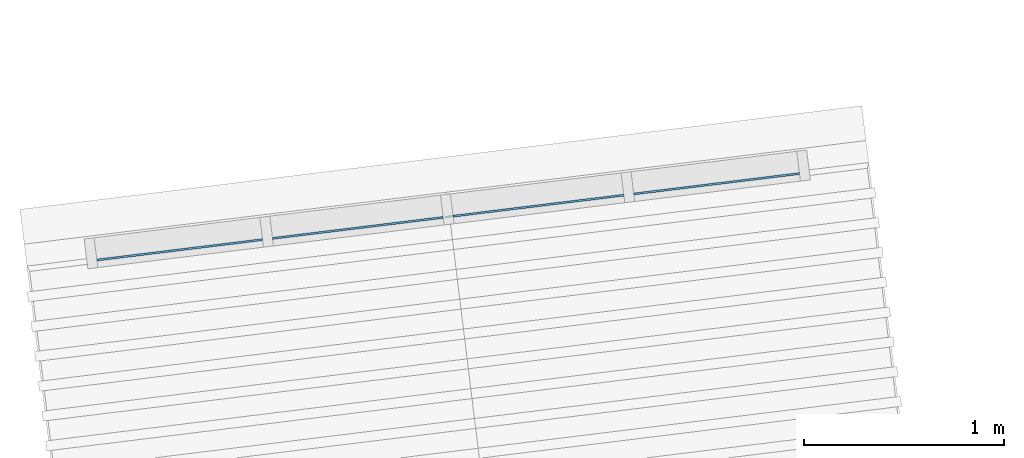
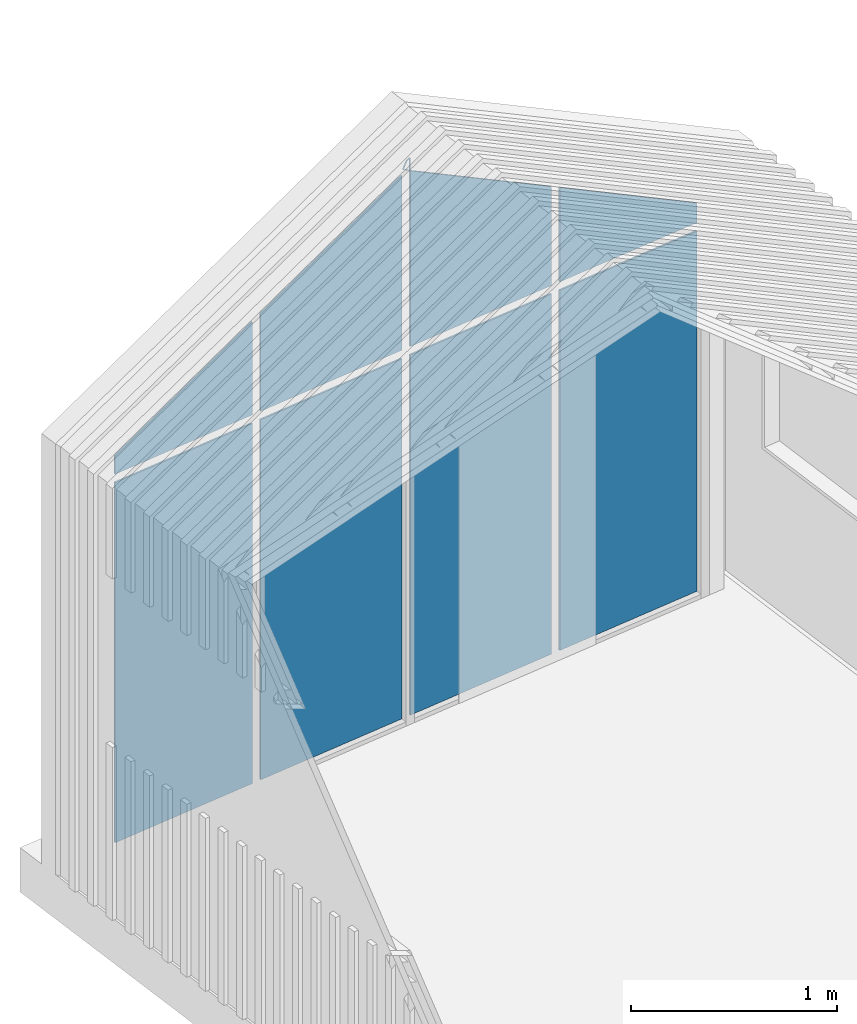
# One storey, part 16 of 75: 8 plates, 1 element without a shape of its own.
"""IFC2X3 building model written with IfcOpenShell, lengths in metres."""

import ifcopenshell
import ifcopenshell.guid

model = None  # the IFC model being written
_history = None  # IfcOwnerHistory: only IFC2X3 demands one
_inside = {}  # id of a spatial element -> (the spatial element, [elements in it])
_under = {}  # id of a project, library or spatial element -> (it, [spatial elements below it])
_declared = {}  # id of a project -> (the project, [libraries it declares])
_typed = {}  # id of a type object -> (the type object, [elements of that type])
_made_of = {}  # id of a material, layer set ... -> (it, [elements and type objects made of it])


def new_model(schema):
    """Start an empty IFC model of exactly this schema.

    Asked for "IFC4X3", IfcOpenShell would pick the latest addendum, in which some entities
    have other attributes; the version numbers below select the first issue.
    IFC2X3 requires an IfcOwnerHistory on every rooted entity: one is made here for all.
    """
    global model, _history
    if schema == "IFC4X3":
        model = ifcopenshell.file(schema_version=(4, 3, 0, 0))
    else:
        model = ifcopenshell.file(schema=schema)
    _inside.clear()
    _under.clear()
    _declared.clear()
    _typed.clear()
    _made_of.clear()
    _history = None
    if model.schema == "IFC2X3":
        org = make("IfcOrganization", Name="unknown")
        user = make(
            "IfcPersonAndOrganization",
            ThePerson=make("IfcPerson", FamilyName="unknown"),
            TheOrganization=org,
        )
        app = make(
            "IfcApplication",
            ApplicationDeveloper=org,
            Version="unknown",
            ApplicationFullName="unknown",
            ApplicationIdentifier="unknown",
        )
        _history = make(
            "IfcOwnerHistory",
            OwningUser=user,
            OwningApplication=app,
            ChangeAction="ADDED",
            CreationDate=0,
        )
    return model


def make(cls, **values):
    """One entity of the class cls with the attributes given. An attribute that is None is left unset."""
    return model.create_entity(
        cls, **{name: value for name, value in values.items() if value is not None}
    )


def entity(cls, *values):
    """Any entity or typed value of the class cls, its attributes in the order of the schema. None: left unset."""
    e = model.create_entity(cls)
    for i, value in enumerate(values):
        if value is not None:
            e[i] = value
    return e


def rooted(cls, **values):
    """An entity with a GlobalId (a new one), such as an element, a storey or a relation."""
    return make(cls, GlobalId=ifcopenshell.guid.new(), OwnerHistory=_history, **values)


def si_unit(unit_type, name, prefix=None):
    """IfcSIUnit, for example si_unit("LENGTHUNIT", "METRE", prefix="MILLI")."""
    return make("IfcSIUnit", UnitType=unit_type, Prefix=prefix, Name=name)


def converted_unit(unit_type, name, factor, base, dimensions=None, offset=None):
    """IfcConversionBasedUnit, such as the inch: factor (a typed value) times the base unit."""
    return make(
        "IfcConversionBasedUnit"
        if offset is None
        else "IfcConversionBasedUnitWithOffset",
        ConversionOffset=offset,
        Dimensions=None
        if dimensions is None
        else entity("IfcDimensionalExponents", *dimensions),
        UnitType=unit_type,
        Name=name,
        ConversionFactor=make(
            "IfcMeasureWithUnit", ValueComponent=factor, UnitComponent=base
        ),
    )


def derived_unit(unit_type, elements):
    """IfcDerivedUnit: a product of units, each with its exponent."""
    return make(
        "IfcDerivedUnit",
        Elements=[
            make("IfcDerivedUnitElement", Unit=unit, Exponent=power)
            for unit, power in elements
        ],
        UnitType=unit_type,
    )


def assignment(units):
    """IfcUnitAssignment: the units of a project."""
    return None if units is None else make("IfcUnitAssignment", Units=units)


def point(xyz):
    """IfcCartesianPoint."""
    return None if xyz is None else make("IfcCartesianPoint", Coordinates=xyz)


def direction(xyz):
    """IfcDirection."""
    return None if xyz is None else make("IfcDirection", DirectionRatios=xyz)


def frame(location, z_axis=None, x_axis=None):
    """IfcAxis2Placement3D, a coordinate frame: its origin and axes. An axis left out is left unset."""
    return make(
        "IfcAxis2Placement3D",
        Location=point(location),
        Axis=direction(z_axis),
        RefDirection=direction(x_axis),
    )


def frame_2d(location, x_axis=None):
    """IfcAxis2Placement2D, a coordinate frame in the plane: its origin and x axis."""
    return make(
        "IfcAxis2Placement2D", Location=point(location), RefDirection=direction(x_axis)
    )


def origin():
    """The frame at (0, 0, 0) with its axes left unset."""
    return frame((0.0, 0.0, 0.0))


def place(relative_to, where):
    """IfcLocalPlacement: puts the frame where relative to a parent placement (None: the world)."""
    return make(
        "IfcLocalPlacement", PlacementRelTo=relative_to, RelativePlacement=where
    )


def context(
    kind, dimensions, precision=None, world=None, true_north=None, identifier=None
):
    """IfcGeometricRepresentationContext, for example the 3D "Model" context."""
    return make(
        "IfcGeometricRepresentationContext",
        ContextIdentifier=identifier,
        ContextType=kind,
        CoordinateSpaceDimension=dimensions,
        Precision=precision,
        WorldCoordinateSystem=world,
        TrueNorth=true_north,
    )


def subcontext(parent, identifier, kind, view, scale=None):
    """IfcGeometricRepresentationSubContext, for example "Body" below "Model"."""
    return make(
        "IfcGeometricRepresentationSubContext",
        ContextIdentifier=identifier,
        ContextType=kind,
        ParentContext=parent,
        TargetScale=scale,
        TargetView=view,
    )


def project(units=None, contexts=None):
    """IfcProject with its units and contexts."""
    return rooted(
        "IfcProject",
        Name="project",
        RepresentationContexts=contexts,
        UnitsInContext=assignment(units),
    )


def spatial(cls, under=None, at=None, **own):
    """A site, building, storey or space (cls), placed at a placement, below another one or the project."""
    s = rooted(cls, ObjectPlacement=at, **own)
    if under is not None:
        _under.setdefault(under.id(), (under, []))[1].append(s)
    return s


def polyline(points):
    """IfcPolyline through the points."""
    return make("IfcPolyline", Points=[point(p) for p in points])


def profile(cls, at=None, kind="AREA", **sizes):
    """A parametric profile (cls). Its sizes go by their IFC names, for example OverallWidth=200.0."""
    return make(cls, ProfileType=kind, Position=at, **sizes)


def rectangle(**sizes):
    """IfcRectangleProfileDef."""
    return profile("IfcRectangleProfileDef", **sizes)


def outline(outer, holes=None, kind="AREA"):
    """IfcArbitraryClosedProfileDef: a profile drawn as a closed curve; with holes, ...WithVoids."""
    if holes is None:
        return make("IfcArbitraryClosedProfileDef", ProfileType=kind, OuterCurve=outer)
    return make(
        "IfcArbitraryProfileDefWithVoids",
        ProfileType=kind,
        OuterCurve=outer,
        InnerCurves=holes,
    )


def extrude(swept, where, along, depth):
    """IfcExtrudedAreaSolid: the profile swept, set in the frame where, extruded along a direction by depth."""
    return make(
        "IfcExtrudedAreaSolid",
        SweptArea=swept,
        Position=where,
        ExtrudedDirection=direction(along),
        Depth=depth,
    )


def faces_of(points, faces, orient=None, outer=None):
    """IfcFace entities. A face is a list of loops; a loop is a list of indices into points, from 0.

    orient and outer hold one flag for each loop. By default every Orientation is true, the
    first loop of a face is its IfcFaceOuterBound and the others are IfcFaceBound.
    """
    made = []
    for i, loops in enumerate(faces):
        bounds = []
        for j, loop in enumerate(loops):
            is_outer = j == 0 if outer is None else outer[i][j]
            bounds.append(
                make(
                    "IfcFaceOuterBound" if is_outer else "IfcFaceBound",
                    Bound=make("IfcPolyLoop", Polygon=[points[k] for k in loop]),
                    Orientation=True if orient is None else orient[i][j],
                )
            )
        made.append(make("IfcFace", Bounds=bounds))
    return made


def faceted_brep(points, faces, orient=None, outer=None, voids=None):
    """IfcFacetedBrep: a solid bounded by flat faces; with voids (closed shells), ...WithVoids."""
    shared = [point(p) for p in points]
    hull = make("IfcClosedShell", CfsFaces=faces_of(shared, faces, orient, outer))
    if voids is None:
        return make("IfcFacetedBrep", Outer=hull)
    return make(
        "IfcFacetedBrepWithVoids",
        Outer=hull,
        Voids=[
            make(cls, CfsFaces=faces_of(shared, fs, o, b)) for cls, fs, o, b in voids
        ],
    )


def shape(context_of_items, identifier, shape_type, items):
    """IfcShapeRepresentation: the items that make up one representation, for example the "Body"."""
    return make(
        "IfcShapeRepresentation",
        ContextOfItems=context_of_items,
        RepresentationIdentifier=identifier,
        RepresentationType=shape_type,
        Items=items,
    )


def source(mapping_origin, context_of_items, identifier, shape_type, items):
    """IfcRepresentationMap: a shape defined once, which mapped items show again and again."""
    return make(
        "IfcRepresentationMap",
        MappingOrigin=mapping_origin,
        MappedRepresentation=shape(context_of_items, identifier, shape_type, items),
    )


def transform(
    local_origin,
    x_axis=None,
    y_axis=None,
    z_axis=None,
    scale=None,
    scale2=None,
    scale3=None,
    uniform=True,
):
    """IfcCartesianTransformationOperator3D, or its non-uniform kind. x_axis, y_axis, z_axis: its Axis1, 2, 3."""
    if uniform:
        return make(
            "IfcCartesianTransformationOperator3D",
            Axis1=direction(x_axis),
            Axis2=direction(y_axis),
            LocalOrigin=point(local_origin),
            Scale=scale,
            Axis3=direction(z_axis),
        )
    return make(
        "IfcCartesianTransformationOperator3DnonUniform",
        Axis1=direction(x_axis),
        Axis2=direction(y_axis),
        LocalOrigin=point(local_origin),
        Scale=scale,
        Axis3=direction(z_axis),
        Scale2=scale2,
        Scale3=scale3,
    )


def mapped(mapping_source, mapping_target):
    """IfcMappedItem: shows the shape of a source again, moved by a transform."""
    return make(
        "IfcMappedItem", MappingSource=mapping_source, MappingTarget=mapping_target
    )


def material(Name=None, Category=None):
    """IfcMaterial."""
    return make("IfcMaterial", Name=Name, Category=Category)


def made_of(thing, what):
    """Note that an element or type object is made of a material, layer set ...; save() writes the relation."""
    if what is not None:
        _made_of.setdefault(what.id(), (what, []))[1].append(thing)
    return thing


def type_object(cls, material=None, **own):
    """A type object (cls), such as IfcWallType, which elements share."""
    return made_of(rooted(cls, **own), material)


def type_shapes(of_type, sources):
    """Give a type object the sources (RepresentationMaps) that its elements show as mapped items."""
    of_type.RepresentationMaps = sources


def element(
    cls,
    number,
    at=None,
    inside=None,
    cuts=None,
    type_object=None,
    material=None,
    context=None,
    identifier="Body",
    shape_type=None,
    held_by="IfcProductDefinitionShape",
    body=None,
    shapes=None,
    **own,
):
    """One element of the class cls, such as IfcWall. Its Tag is "e" and its number.

    at: its placement. inside: the storey or other place that contains it. cuts: it is an
    opening in that element (IfcRelVoidsElement). A single representation is given by context,
    identifier, shape_type and body (its items); several are given by shapes. held_by: the class
    of the entity that holds the representations. save() writes the other relations.
    """
    e = rooted(cls, Tag="e%d" % number, ObjectPlacement=at, **own)
    if body is not None:
        shapes = [shape(context, identifier, shape_type, body)]
    if shapes is not None:
        e.Representation = make(held_by, Representations=shapes)
    if inside is not None:
        _inside.setdefault(inside.id(), (inside, []))[1].append(e)
    if cuts is not None:
        rooted(
            "IfcRelVoidsElement", RelatingBuildingElement=cuts, RelatedOpeningElement=e
        )
    if type_object is not None:
        _typed.setdefault(type_object.id(), (type_object, []))[1].append(e)
    return made_of(e, material)


def aggregate(whole, parts):
    """IfcRelAggregates: a whole, such as a stair, and the parts it consists of."""
    return rooted("IfcRelAggregates", RelatingObject=whole, RelatedObjects=parts)


def save(model, path):
    """Write the relations noted so far, then the file.

    IfcRelAggregates (storeys below a building ...), IfcRelContainedInSpatialStructure (elements
    in a storey), IfcRelDefinesByType, IfcRelAssociatesMaterial and IfcRelDeclares: one each for
    every whole, place, type object, material and project.
    """
    for whole, parts in _under.values():
        aggregate(whole, parts)
    for where, things in _inside.values():
        rooted(
            "IfcRelContainedInSpatialStructure",
            RelatedElements=things,
            RelatingStructure=where,
        )
    for kind, things in _typed.values():
        rooted("IfcRelDefinesByType", RelatedObjects=things, RelatingType=kind)
    for what, things in _made_of.values():
        rooted("IfcRelAssociatesMaterial", RelatedObjects=things, RelatingMaterial=what)
    for by, libraries in _declared.values():
        rooted("IfcRelDeclares", RelatingContext=by, RelatedDefinitions=libraries)
    model.write(path)


model = new_model("IFC2X3")

# Units and contexts
model_context = context("Model", 3, precision=1e-05, world=origin(), true_north=direction((6.123031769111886e-17, 1.0)))
body_context = subcontext(model_context, "Body", "Model", "MODEL_VIEW")
ifc_project = project(units=[si_unit("LENGTHUNIT", "METRE"), si_unit("AREAUNIT", "SQUARE_METRE"), si_unit("VOLUMEUNIT", "CUBIC_METRE"), converted_unit("PLANEANGLEUNIT", "DEGREE", entity("IfcRatioMeasure", 0.017453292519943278), si_unit("PLANEANGLEUNIT", "RADIAN"), dimensions=[0, 0, 0, 0, 0, 0, 0]), si_unit("MASSUNIT", "GRAM", prefix="KILO"), derived_unit("MASSDENSITYUNIT", [(si_unit("MASSUNIT", "GRAM", prefix="KILO"), 1), (si_unit("LENGTHUNIT", "METRE"), -3)]), derived_unit("IONCONCENTRATIONUNIT", [(si_unit("MASSUNIT", "GRAM", prefix="KILO"), 1), (si_unit("LENGTHUNIT", "METRE"), -3)]), derived_unit("MOMENTOFINERTIAUNIT", [(si_unit("LENGTHUNIT", "METRE"), 4)]), si_unit("TIMEUNIT", "SECOND"), si_unit("FREQUENCYUNIT", "HERTZ"), si_unit("THERMODYNAMICTEMPERATUREUNIT", "DEGREE_CELSIUS"), derived_unit("THERMALTRANSMITTANCEUNIT", [(si_unit("MASSUNIT", "GRAM", prefix="KILO"), 1), (si_unit("THERMODYNAMICTEMPERATUREUNIT", "KELVIN"), -1), (si_unit("TIMEUNIT", "SECOND"), -3)]), derived_unit("THERMALCONDUCTANCEUNIT", [(si_unit("MASSUNIT", "GRAM", prefix="KILO"), 1), (si_unit("THERMODYNAMICTEMPERATUREUNIT", "KELVIN"), -1), (si_unit("TIMEUNIT", "SECOND"), -3), (si_unit("LENGTHUNIT", "METRE"), 1)]), derived_unit("VOLUMETRICFLOWRATEUNIT", [(si_unit("LENGTHUNIT", "METRE"), 3), (si_unit("TIMEUNIT", "SECOND"), -1)]), derived_unit("MASSFLOWRATEUNIT", [(si_unit("MASSUNIT", "GRAM", prefix="KILO"), 1), (si_unit("TIMEUNIT", "SECOND"), -1)]), derived_unit("ROTATIONALFREQUENCYUNIT", [(si_unit("TIMEUNIT", "SECOND"), -1)]), si_unit("ELECTRICCURRENTUNIT", "AMPERE"), si_unit("ELECTRICVOLTAGEUNIT", "VOLT"), si_unit("POWERUNIT", "WATT"), si_unit("FORCEUNIT", "NEWTON", prefix="KILO"), si_unit("ILLUMINANCEUNIT", "LUX"), si_unit("LUMINOUSFLUXUNIT", "LUMEN"), si_unit("LUMINOUSINTENSITYUNIT", "CANDELA"), derived_unit("USERDEFINED", [(si_unit("MASSUNIT", "GRAM", prefix="KILO"), -1), (si_unit("LENGTHUNIT", "METRE"), -2), (si_unit("TIMEUNIT", "SECOND"), 3), (si_unit("LUMINOUSFLUXUNIT", "LUMEN"), 1)]), derived_unit("USERDEFINED", [(si_unit("MASSUNIT", "GRAM", prefix="KILO"), 1), (si_unit("TIMEUNIT", "SECOND"), -3), (si_unit("LENGTHUNIT", "METRE"), 3), (si_unit("ELECTRICCURRENTUNIT", "AMPERE"), -2)]), derived_unit("SOUNDPOWERUNIT", [(si_unit("MASSUNIT", "GRAM", prefix="KILO"), 1), (si_unit("TIMEUNIT", "SECOND"), -3), (si_unit("LENGTHUNIT", "METRE"), 2)]), derived_unit("SOUNDPRESSUREUNIT", [(si_unit("MASSUNIT", "GRAM", prefix="KILO"), 1), (si_unit("LENGTHUNIT", "METRE"), -1), (si_unit("TIMEUNIT", "SECOND"), -2)]), derived_unit("LINEARVELOCITYUNIT", [(si_unit("LENGTHUNIT", "METRE"), 1), (si_unit("TIMEUNIT", "SECOND"), -1)]), si_unit("PRESSUREUNIT", "PASCAL"), derived_unit("USERDEFINED", [(si_unit("MASSUNIT", "GRAM", prefix="KILO"), 1), (si_unit("LENGTHUNIT", "METRE"), -2), (si_unit("TIMEUNIT", "SECOND"), -2)]), derived_unit("LINEARFORCEUNIT", [(si_unit("MASSUNIT", "GRAM", prefix="KILO"), 1), (si_unit("TIMEUNIT", "SECOND"), -2)]), derived_unit("PLANARFORCEUNIT", [(si_unit("MASSUNIT", "GRAM", prefix="KILO"), 1), (si_unit("LENGTHUNIT", "METRE"), -1), (si_unit("TIMEUNIT", "SECOND"), -2)]), derived_unit("SPECIFICHEATCAPACITYUNIT", [(si_unit("THERMODYNAMICTEMPERATUREUNIT", "KELVIN"), -1), (si_unit("LENGTHUNIT", "METRE"), 2), (si_unit("TIMEUNIT", "SECOND"), -2)]), derived_unit("HEATINGVALUEUNIT", [(si_unit("LENGTHUNIT", "METRE"), 2), (si_unit("TIMEUNIT", "SECOND"), -2)]), derived_unit("VAPORPERMEABILITYUNIT", [(si_unit("LENGTHUNIT", "METRE"), -1), (si_unit("TIMEUNIT", "SECOND"), 1)]), derived_unit("DYNAMICVISCOSITYUNIT", [(si_unit("MASSUNIT", "GRAM", prefix="KILO"), 1), (si_unit("TIMEUNIT", "SECOND"), -1), (si_unit("LENGTHUNIT", "METRE"), -1)]), derived_unit("THERMALEXPANSIONCOEFFICIENTUNIT", [(si_unit("THERMODYNAMICTEMPERATUREUNIT", "KELVIN"), -1)]), derived_unit("MODULUSOFELASTICITYUNIT", [(si_unit("MASSUNIT", "GRAM", prefix="KILO"), 1), (si_unit("LENGTHUNIT", "METRE"), -1), (si_unit("TIMEUNIT", "SECOND"), -2)]), derived_unit("ISOTHERMALMOISTURECAPACITYUNIT", [(si_unit("LENGTHUNIT", "METRE"), 3), (si_unit("MASSUNIT", "GRAM", prefix="KILO"), -1)]), derived_unit("MOISTUREDIFFUSIVITYUNIT", [(si_unit("TIMEUNIT", "SECOND"), -1), (si_unit("LENGTHUNIT", "METRE"), 2)])], contexts=[model_context])

# Site, building, storey
site_placement = place(None, origin())
site = spatial("IfcSite", under=ifc_project, at=site_placement, Name="Default", CompositionType="ELEMENT")
building_placement = place(site_placement, origin())
building = spatial("IfcBuilding", under=site, at=building_placement, Name="Projeto", CompositionType="ELEMENT")
storey_placement = place(building_placement, origin())
storey = spatial("IfcBuildingStorey", under=building, at=storey_placement, Name="Nível 1", CompositionType="ELEMENT", Elevation=0.0)

# Curtain wall, plates
curtain_wall_type = type_object("IfcCurtainWallType", Name="Parede cortina:Vitrine", PredefinedType="NOTDEFINED")
curtain_wall_placement = place(storey_placement, origin())
curtain_wall = element("IfcCurtainWall", 1, at=curtain_wall_placement, inside=storey, type_object=curtain_wall_type, Name="Parede cortina:Vitrine", ObjectType="Parede cortina:Vitrine")
ifc_material = material(Name="Vidro")
plate_type_1 = type_object("IfcPlateType", Name="Painel do sistema:Envidraçado", PredefinedType="CURTAIN_PANEL", material=ifc_material)
shared_shape_1 = source(origin(), body_context, "Body", "SweptSolid", [
    extrude(outline(polyline([(-0.16823398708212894, -0.4168806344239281), (-0.05342537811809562, -0.4168806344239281), (0.3898933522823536, 0.41688063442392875), (-0.16823398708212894, 0.4168806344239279), (-0.16823398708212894, -0.4168806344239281)])), frame((0.0, 0.032000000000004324, 0.1682339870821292), z_axis=(0.0, 1.0, 0.0), x_axis=(0.0, 0.0, 1.0)), (0.0, 0.0, 1.0), 0.010000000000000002),
])
type_shapes(plate_type_1, [shared_shape_1])
plate_1_placement = place(curtain_wall_placement, frame((-151.06561645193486, 78.22297903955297, -0.37203155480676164), z_axis=(0.0, 0.0, 1.0), x_axis=(-0.9925113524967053, -0.12215242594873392, 0.0)))
plate_1 = element("IfcPlate", 2, at=plate_1_placement, type_object=plate_type_1, material=ifc_material, Name="Painel do sistema:Envidraçado", ObjectType="Painel do sistema:Envidraçado", context=body_context, shape_type="MappedRepresentation", body=[
    mapped(shared_shape_1, transform((0.0, 0.0, 0.0), scale=1.0)),
])
plate_type_2 = type_object("IfcPlateType", Name="Painel do sistema:Envidraçado", PredefinedType="CURTAIN_PANEL", material=ifc_material)
shared_shape_2 = source(origin(), body_context, "Body", "Brep", [
    faceted_brep([(0.0, 0.0, 0.0), (0.8587612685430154, 0.0, 0.0), (0.8587612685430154, 0.0, 1.116815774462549), (0.8764993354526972, 0.0, 1.1073842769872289), (0.8999729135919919, 0.0, 1.0632368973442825), (0.0, 0.0, 0.5847128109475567), (0.0, 0.010000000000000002, 0.0), (0.0, 0.010000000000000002, 0.5847128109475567), (0.8999729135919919, 0.010000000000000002, 1.0632368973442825), (0.8764993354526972, 0.010000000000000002, 1.1073842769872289), (0.8587612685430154, 0.010000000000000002, 1.116815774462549), (0.8587612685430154, 0.010000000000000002, 0.0)], [[[0, 1, 2, 3, 4, 5]], [[6, 7, 8, 9, 10, 11]], [[1, 0, 6, 11]], [[2, 1, 11, 10]], [[3, 2, 10, 9]], [[4, 3, 9, 8]], [[5, 4, 8, 7]], [[0, 5, 7, 6]]]),
])
type_shapes(plate_type_2, [shared_shape_2])
plate_2_placement = place(curtain_wall_placement, frame((-151.52509190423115, 78.1341880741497, -0.37203155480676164), z_axis=(0.0, 0.0, 1.0), x_axis=(-0.9925113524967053, -0.12215242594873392, 0.0)))
plate_2 = element("IfcPlate", 3, at=plate_2_placement, type_object=plate_type_2, material=ifc_material, Name="Painel do sistema:Envidraçado", ObjectType="Painel do sistema:Envidraçado", context=body_context, shape_type="MappedRepresentation", body=[
    mapped(shared_shape_2, transform((0.0, 0.0, 0.0), scale=1.0)),
])
plate_type_3 = type_object("IfcPlateType", Name="Painel do sistema:Envidraçado", PredefinedType="CURTAIN_PANEL", material=ifc_material)
shared_shape_3 = source(origin(), body_context, "Body", "SweptSolid", [
    extrude(outline(polyline([(-0.4026480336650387, -0.4293806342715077), (0.6309537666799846, -0.4293806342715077), (0.1743423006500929, 0.4293806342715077), (-0.4026480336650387, 0.42938063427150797), (-0.4026480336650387, -0.4293806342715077)])), frame((0.0, 0.031999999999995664, 0.402648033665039), z_axis=(0.0, 1.0, 0.0), x_axis=(0.0, 0.0, 1.0)), (0.0, 0.0, 1.0), 0.010000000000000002),
])
type_shapes(plate_type_3, [shared_shape_3])
plate_3_placement = place(curtain_wall_placement, frame((-152.85712181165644, 78.00249115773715, -0.37203155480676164), z_axis=(0.0, 0.0, 1.0), x_axis=(-0.9925113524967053, -0.12215242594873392, 0.0)))
plate_3 = element("IfcPlate", 4, at=plate_3_placement, type_object=plate_type_3, material=ifc_material, Name="Painel do sistema:Envidraçado", ObjectType="Painel do sistema:Envidraçado", context=body_context, shape_type="MappedRepresentation", body=[
    mapped(shared_shape_3, transform((0.0, 0.0, 0.0), scale=1.0)),
])
plate_type_4 = type_object("IfcPlateType", Name="Painel do sistema:Envidraçado", PredefinedType="CURTAIN_PANEL", material=ifc_material)
shared_shape_4 = source(origin(), body_context, "Body", "SweptSolid", [
    extrude(outline(polyline([(-0.16437274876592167, -0.41688063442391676), (0.3860321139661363, -0.41688063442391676), (-0.057286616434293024, 0.4168806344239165), (-0.16437274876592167, 0.4168806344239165), (-0.16437274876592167, -0.41688063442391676)])), frame((0.0, 0.031999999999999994, 0.16437274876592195), z_axis=(0.0, 1.0, 0.0), x_axis=(0.0, 0.0, 1.0)), (0.0, 0.0, 1.0), 0.010000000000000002),
])
type_shapes(plate_type_4, [shared_shape_4])
plate_4_placement = place(curtain_wall_placement, frame((-153.74667129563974, 77.89301066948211, -0.37203155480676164), z_axis=(0.0, 0.0, 1.0), x_axis=(-0.9925113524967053, -0.12215242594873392, 0.0)))
plate_4 = element("IfcPlate", 5, at=plate_4_placement, type_object=plate_type_4, material=ifc_material, Name="Painel do sistema:Envidraçado", ObjectType="Painel do sistema:Envidraçado", context=body_context, shape_type="MappedRepresentation", body=[
    mapped(shared_shape_4, transform((0.0, 0.0, 0.0), scale=1.0)),
])
plate_type_5 = type_object("IfcPlateType", Name="Painel do sistema:Envidraçado", PredefinedType="CURTAIN_PANEL", material=ifc_material)
shared_shape_5 = source(origin(), body_context, "Body", "SweptSolid", [
    extrude(rectangle(XDim=0.010000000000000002, YDim=0.8337612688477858, at=frame_2d((-4.336808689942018e-18, 1.3322676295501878e-15), x_axis=(1.0, 0.0))), frame((0.0, 0.037, 0.0), z_axis=(0.0, 0.0, 1.0), x_axis=(0.0, 1.0, 0.0)), (0.0, 0.0, 1.0), 2.1329684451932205),
])
type_shapes(plate_type_5, [shared_shape_5])
plate_5_placement = place(curtain_wall_placement, frame((-151.06561645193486, 78.22297903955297, -2.554999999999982), z_axis=(0.0, 0.0, 1.0), x_axis=(-0.9925113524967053, -0.12215242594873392, 0.0)))
plate_5 = element("IfcPlate", 6, at=plate_5_placement, type_object=plate_type_5, material=ifc_material, Name="Painel do sistema:Envidraçado", ObjectType="Painel do sistema:Envidraçado", context=body_context, shape_type="MappedRepresentation", body=[
    mapped(shared_shape_5, transform((0.0, 0.0, 0.0), scale=1.0)),
])
plate_6_placement = place(curtain_wall_placement, frame((-153.74667129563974, 77.89301066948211, -2.554999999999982), z_axis=(0.0, 0.0, 1.0), x_axis=(-0.9925113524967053, -0.12215242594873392, 0.0)))
plate_6 = element("IfcPlate", 7, at=plate_6_placement, type_object=plate_type_5, material=ifc_material, Name="Painel do sistema:Envidraçado", ObjectType="Painel do sistema:Envidraçado", context=body_context, shape_type="MappedRepresentation", body=[
    mapped(shared_shape_5, transform((0.0, 0.0, 0.0), scale=1.0)),
])
plate_type_6 = type_object("IfcPlateType", Name="Painel do sistema:Envidraçado", PredefinedType="CURTAIN_PANEL", material=ifc_material)
shared_shape_6 = source(origin(), body_context, "Body", "SweptSolid", [
    extrude(rectangle(XDim=0.010000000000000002, YDim=0.858761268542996, at=frame_2d((-4.336808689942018e-18, -1.8318679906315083e-15), x_axis=(1.0, 0.0))), frame((0.0, 0.037, 0.0), z_axis=(0.0, 0.0, 1.0), x_axis=(0.0, 1.0, 0.0)), (0.0, 0.0, 1.0), 2.1329684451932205),
])
type_shapes(plate_type_6, [shared_shape_6])
plate_7_placement = place(curtain_wall_placement, frame((-151.95516593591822, 78.11349855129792, -2.554999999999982), z_axis=(0.0, 0.0, 1.0), x_axis=(-0.9925113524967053, -0.12215242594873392, 0.0)))
plate_7 = element("IfcPlate", 8, at=plate_7_placement, type_object=plate_type_6, material=ifc_material, Name="Painel do sistema:Envidraçado", ObjectType="Painel do sistema:Envidraçado", context=body_context, shape_type="MappedRepresentation", body=[
    mapped(shared_shape_6, transform((0.0, 0.0, 0.0), scale=1.0)),
])
plate_8_placement = place(curtain_wall_placement, frame((-152.85712181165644, 78.00249115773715, -2.554999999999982), z_axis=(0.0, 0.0, 1.0), x_axis=(-0.9925113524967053, -0.12215242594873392, 0.0)))
plate_8 = element("IfcPlate", 9, at=plate_8_placement, type_object=plate_type_6, material=ifc_material, Name="Painel do sistema:Envidraçado", ObjectType="Painel do sistema:Envidraçado", context=body_context, shape_type="MappedRepresentation", body=[
    mapped(shared_shape_6, transform((0.0, 0.0, 0.0), scale=1.0)),
])
aggregate(curtain_wall, [plate_5, plate_7, plate_8, plate_6, plate_1, plate_2, plate_3, plate_4])

save(model, "model.ifc")
